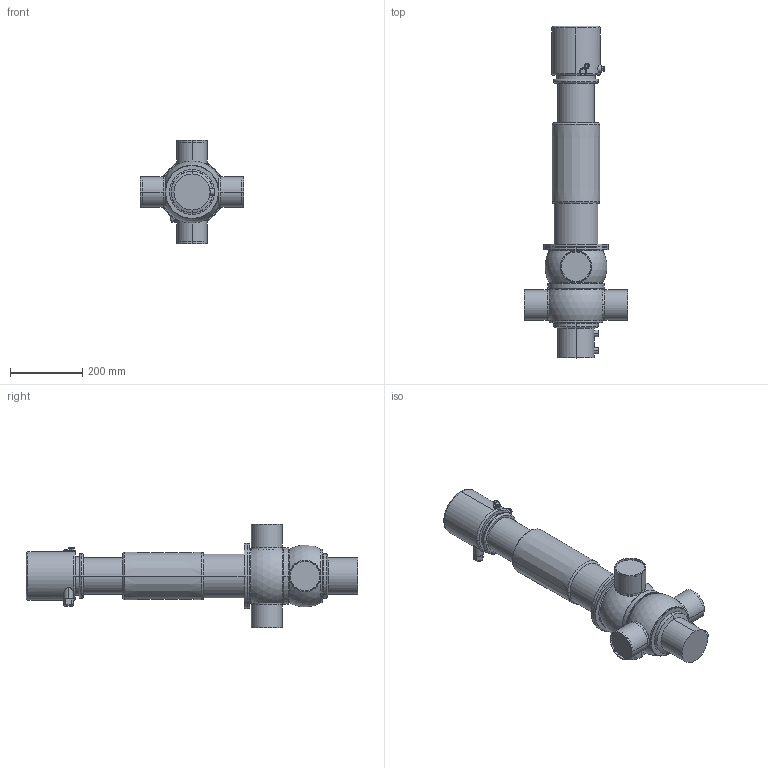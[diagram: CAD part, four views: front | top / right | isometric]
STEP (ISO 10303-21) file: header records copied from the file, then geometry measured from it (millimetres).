
FILE_DESCRIPTION(('Creo Elements/Direct Modeling STEP Export'),'2;1');
FILE_NAME('D44-80_CU4.stp','2019-09-03T15:00:22',(''),(''),'PTC Creo Elements/Direct Modeling STEP processor for AP214 (Solid Model)','PTC Creo Elements/Direct Modeling 19.0B 21-Mar-2015 (C) Parametric Technology GmbH','');
FILE_SCHEMA(('AUTOMOTIVE_DESIGN { 1 0 10303 214 1 1 1 1 }'));
Length unit declared in the file: millimetre
Products named in the file (5): actuator_D4-125_yoke; CU41-D4; housing_D44-80; drain_pipe_92; D44-80_CU4
Assembly tree (4 placements, depth 2):
  D44-80_CU4
    drain_pipe_92
    housing_D44-80
    CU41-D4
    actuator_D4-125_yoke
Bounding box: 285 x 918.35 x 285 mm (x, y, z)
Volume: 14198349.1 mm3; surface area: 636341.4 mm2
Topology: 4 solids, 4 shells, 253 faces, 586 edges, 369 vertices
Faces by surface type: cylinder 98, plane 63, torus 44, extrusion 33, cone 10, sphere 5
Entity records: 10995 total; most frequent: CARTESIAN_POINT 5586, ORIENTED_EDGE 1168, DIRECTION 998, EDGE_CURVE 584, AXIS2_PLACEMENT_3D 398, VERTEX_POINT 369, EDGE_LOOP 283, FACE_OUTER_BOUND 253
